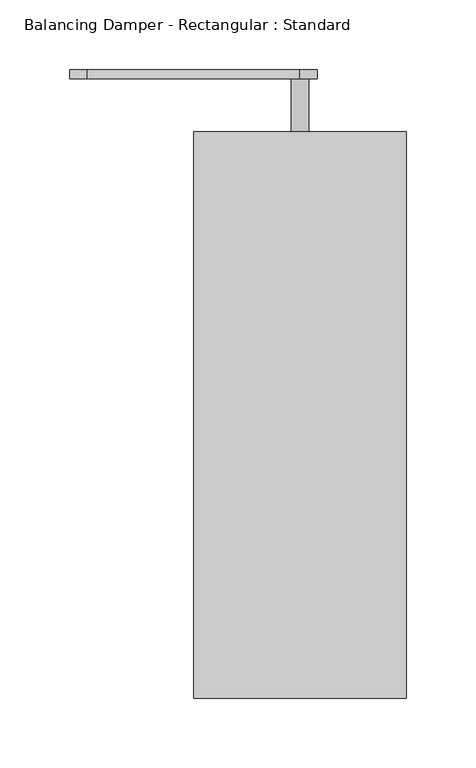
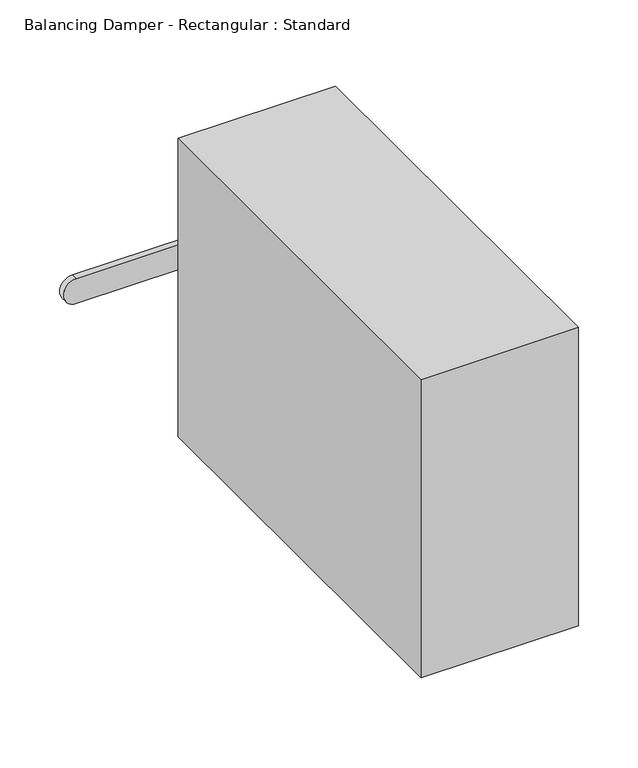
"""IFC4 building model written with IfcOpenShell, lengths in millimetres: damper geometry, Balancing Damper - Rectangular : Standard."""

from ifc_helpers import new_model, si_unit, point, frame, frame_2d, origin, origin_2d, place, context, project, spatial, polyline, circle_curve, trimmed, segment, composite_curve, outline, extrude, source, transform, mapped, element, save


def balancing_damper_rectangular_standard_2d3e0df1(model_context):
    return source(origin(), model_context, "Body", "SweptSolid", [
        extrude(outline(polyline([(76.2, 203.2), (76.2, -203.2), (-76.2, -203.2), (-76.2, 203.2), (76.2, 203.2)])), frame((0.0, 0.0, -152.4), z_axis=(0.0, 0.0, 1.0), x_axis=(1.0, 0.0, 0.0)), (0.0, 0.0, 1.0), 304.8),
        extrude(outline(composite_curve([segment(trimmed(circle_curve(origin_2d(), 12.7), [point((-12.7, 0.0))], [point((12.7, 0.0))], False, "CARTESIAN"), True, "CONTINUOUS"), segment(polyline([(12.7, 0.0), (12.7, -152.4)]), True, "CONTINUOUS"), segment(trimmed(circle_curve(frame_2d((0.0, -152.4)), 12.7), [point((12.7, -152.4))], [point((-12.7, -152.4))], False, "CARTESIAN"), True, "CONTINUOUS"), segment(polyline([(-12.7, -152.4), (-12.7, 0.0)]), True, "CONTINUOUS")], self_intersect=False)), frame((0.0, 241.3, 0.0), z_axis=(0.0, 1.0, 0.0), x_axis=(0.0, 0.0, 1.0)), (0.0, 0.0, 1.0), 6.35),
        extrude(outline(composite_curve([segment(trimmed(circle_curve(origin_2d(), 6.35), [point((0.0, -6.35))], [point((0.0, 6.35))], False, "CARTESIAN"), True, "CONTINUOUS"), segment(trimmed(circle_curve(origin_2d(), 6.35), [point((0.0, 6.35))], [point((0.0, -6.35))], False, "CARTESIAN"), True, "CONTINUOUS")], self_intersect=False)), frame((0.0, 203.2, 0.0), z_axis=(0.0, 1.0, 0.0), x_axis=(0.0, 0.0, 1.0)), (0.0, 0.0, 1.0), 38.1),
    ])


if __name__ == "__main__":
    model = new_model("IFC4")
    model_context = context("Model", 3, world=origin())
    ifc_project = project(units=[si_unit("LENGTHUNIT", "METRE", prefix="MILLI")], contexts=[model_context])
    site = spatial("IfcSite", under=ifc_project)
    building = spatial("IfcBuilding", under=site)
    placement = place(None, origin())
    balancing_damper_rectangular_standard_shape = balancing_damper_rectangular_standard_2d3e0df1(model_context)
    element("IfcDamper", 1, ObjectType="Balancing Damper - Rectangular : Standard", at=placement, inside=building, context=model_context, shape_type="MappedRepresentation", body=[
        mapped(balancing_damper_rectangular_standard_shape, transform((0.0, 0.0, 0.0), x_axis=(1.0, 0.0, 0.0), y_axis=(0.0, 1.0, 0.0), z_axis=(0.0, 0.0, 1.0))),
    ])
    save(model, "model.ifc")
